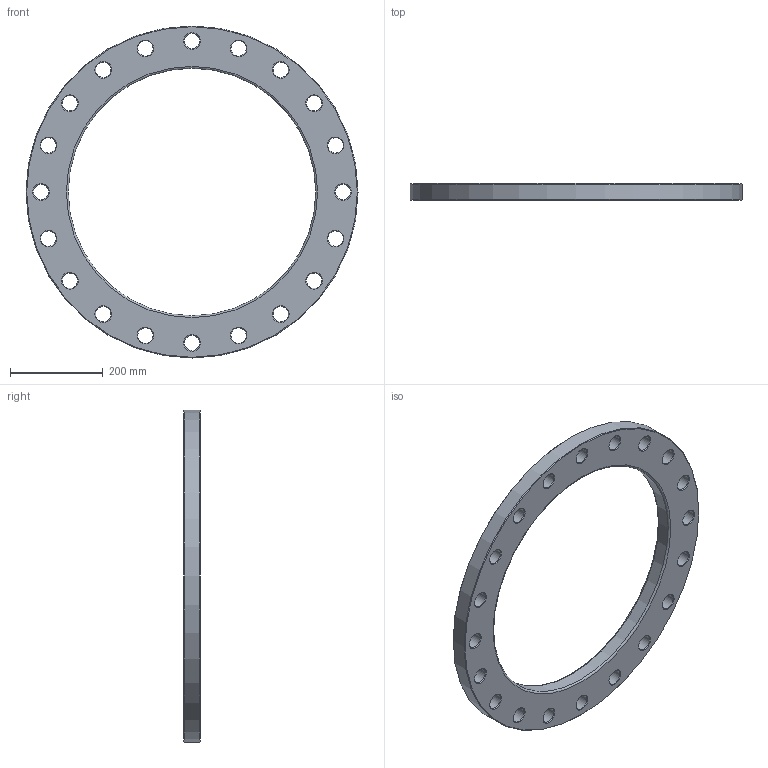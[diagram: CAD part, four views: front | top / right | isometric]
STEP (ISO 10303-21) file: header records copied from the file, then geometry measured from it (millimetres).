
FILE_DESCRIPTION(/* description */ ('Unknown'),/* implementation_level */ '2;1');
FILE_NAME(/* name */ 'FZ500C',/* time_stamp */ '2021-03-15T12:22:41+01:00',/* author */ ('Unknown'),/* organization */ ('Unknown'),/* preprocessor_version */ 'ST-DEVELOPER v16.7',/* originating_system */ 'Solid Edge',/* authorisation */ 'Unknown');
FILE_SCHEMA (('AUTOMOTIVE_DESIGN {1 0 10303 214 3 1 1}'));
Length unit declared in the file: millimetre
Products named in the file (1): FZ500C
Bounding box: 715 x 36 x 715 mm (x, y, z)
Volume: 5784912.9 mm3; surface area: 525146.9 mm2
Topology: 1 solids, 1 shells, 68 faces, 214 edges, 148 vertices
Faces by surface type: cone 42, cylinder 22, plane 2, torus 2
Full cylindrical faces by diameter (mm): 33 x20, 533 x1, 715 x1
Entity records: 1678 total; most frequent: DIRECTION 314, CARTESIAN_POINT 245, ORIENTED_EDGE 176, EDGE_LOOP 176, FACE_BOUND 176, AXIS2_PLACEMENT_3D 157, EDGE_CURVE 88, VERTEX_POINT 88
